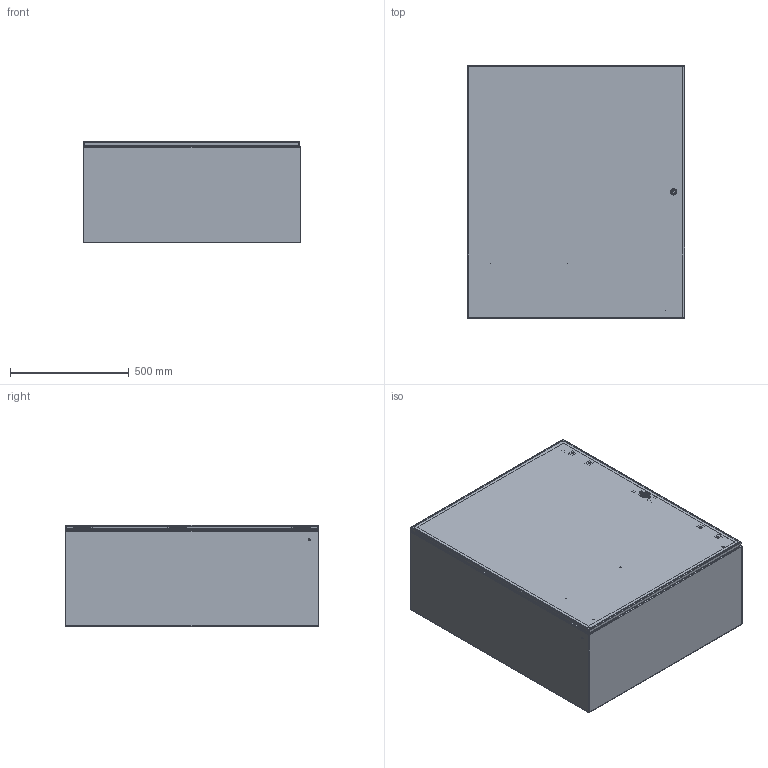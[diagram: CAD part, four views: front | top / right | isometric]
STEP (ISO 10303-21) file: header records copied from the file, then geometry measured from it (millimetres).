
FILE_DESCRIPTION (( 'STEP AP203' ), '1' );
FILE_NAME ('29428.step', '2015-03-30T06:32:50', ( '' ), ( '' ), 'SwSTEP 2.0', 'SolidWorks 2010', '' );
FILE_SCHEMA (( 'CONFIG_CONTROL_DESIGN' ));
Products named in the file (34): 29428; 89117181; 89117180_default; 89116698_default; 89116697_default; 23271001_After Weld; 87937949_assy; 87937989_weldment; 87936148; 99401225; 51123001_Post weld; 87931362_87931362; 87408407_Unlocked; 64102001_Latch Open; 87540678; 64210001; 64202001; 64208001; 64205001; 87541995; 87541994_Installed Height; 64206004; 64207001; 64103001; 99411834; 87555298; 87938012; 87543027; 89076399; 89076193; 89056623; 87929507; 87929767; 87929769_Installed on Pin
Assembly tree (55 placements, depth 5):
  29428
    87543027  x3
    89076399  x3
      89076193
      89056623
    89117181
      23271001_After Weld  x8
      89116697_default
      99401225
      89117180_default
      89116698_default
    87937949_assy
      87408407_Unlocked
        64103001  x4
        64206004  x2
        99411834  x2
        64207001  x2
        64102001_Latch Open
          64205001  x2
          87541994_Installed Height
          64208001
          64202001
          87541995
          87540678
          64210001
      87555298
      87937989_weldment
        87931362_87931362  x2
        99401225
        87936148
        51123001_Post weld
      87938012
    87929507  x3
      87929767
      87929769_Installed on Pin
Bounding box: 914.4 x 1066.8 x 427.1 mm (x, y, z)
Volume: 7170494.4 mm3; surface area: 7709515.3 mm2
Topology: 53 solids, 53 shells, 3361 faces, 8699 edges, 5473 vertices
Faces by surface type: plane 1491, cylinder 923, bspline 626, torus 183, cone 101, sphere 37
Entity records: 73455 total; most frequent: CARTESIAN_POINT 25937, ORIENTED_EDGE 9456, DIRECTION 8334, EDGE_CURVE 4728, VERTEX_POINT 2988, AXIS2_PLACEMENT_3D 2825, LINE 2684, VECTOR 2684
